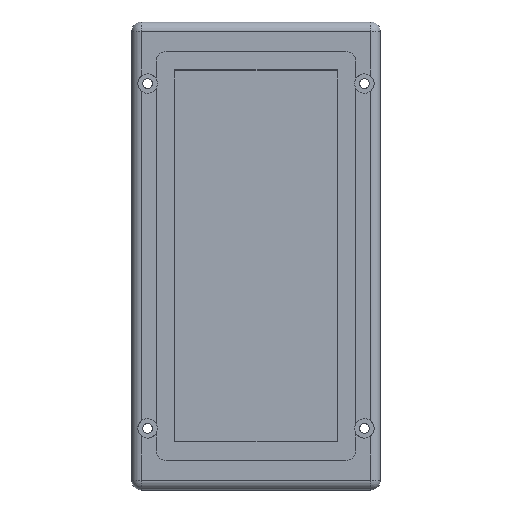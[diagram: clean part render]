
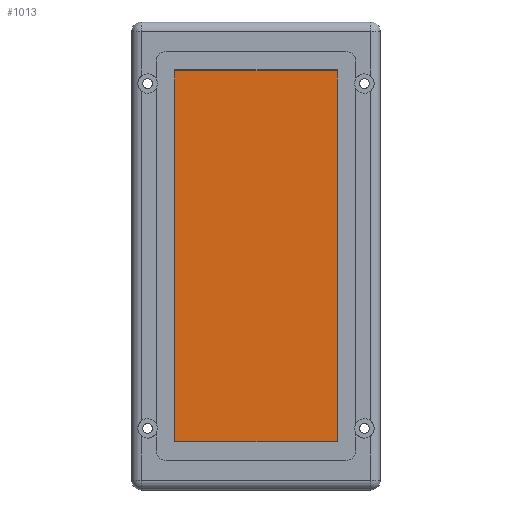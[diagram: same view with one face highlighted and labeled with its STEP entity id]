
A CAD part, top view. The second image highlights one B-rep face of the part: STEP entity #1013.
In plain terms, the highlighted planar face has unit normal (0, 0, 1).
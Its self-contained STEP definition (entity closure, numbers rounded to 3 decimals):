
#67=PLANE('',#1140);
#120=FACE_OUTER_BOUND('',#192,.T.);
#192=EDGE_LOOP('',(#910,#911,#912,#913));
#264=LINE('',#1774,#344);
#267=LINE('',#1779,#347);
#269=LINE('',#1783,#349);
#271=LINE('',#1786,#351);
#344=VECTOR('',#1416,10.);
#347=VECTOR('',#1421,10.);
#349=VECTOR('',#1425,10.);
#351=VECTOR('',#1429,10.);
#502=VERTEX_POINT('',#1772);
#503=VERTEX_POINT('',#1773);
#504=VERTEX_POINT('',#1778);
#505=VERTEX_POINT('',#1782);
#638=EDGE_CURVE('',#502,#503,#264,.T.);
#641=EDGE_CURVE('',#504,#502,#267,.T.);
#643=EDGE_CURVE('',#503,#505,#269,.T.);
#645=EDGE_CURVE('',#505,#504,#271,.T.);
#910=ORIENTED_EDGE('',*,*,#641,.T.);
#911=ORIENTED_EDGE('',*,*,#638,.T.);
#912=ORIENTED_EDGE('',*,*,#643,.T.);
#913=ORIENTED_EDGE('',*,*,#645,.T.);
#1013=ADVANCED_FACE('',(#120),#67,.T.);
#1140=AXIS2_PLACEMENT_3D('',#1794,#1442,#1443);
#1416=DIRECTION('',(0.,-1.,0.));
#1421=DIRECTION('',(-1.,0.,0.));
#1425=DIRECTION('',(1.,0.,0.));
#1429=DIRECTION('',(0.,1.,0.));
#1442=DIRECTION('center_axis',(0.,0.,1.));
#1443=DIRECTION('ref_axis',(1.,0.,0.));
#1772=CARTESIAN_POINT('',(-16.5,37.75,4.));
#1773=CARTESIAN_POINT('',(-16.5,-37.75,4.));
#1774=CARTESIAN_POINT('',(-16.5,-37.75,4.));
#1778=CARTESIAN_POINT('',(16.5,37.75,4.));
#1779=CARTESIAN_POINT('',(-16.5,37.75,4.));
#1782=CARTESIAN_POINT('',(16.5,-37.75,4.));
#1783=CARTESIAN_POINT('',(16.5,-37.75,4.));
#1786=CARTESIAN_POINT('',(16.5,37.75,4.));
#1794=CARTESIAN_POINT('Origin',(0.,0.,
4.));
